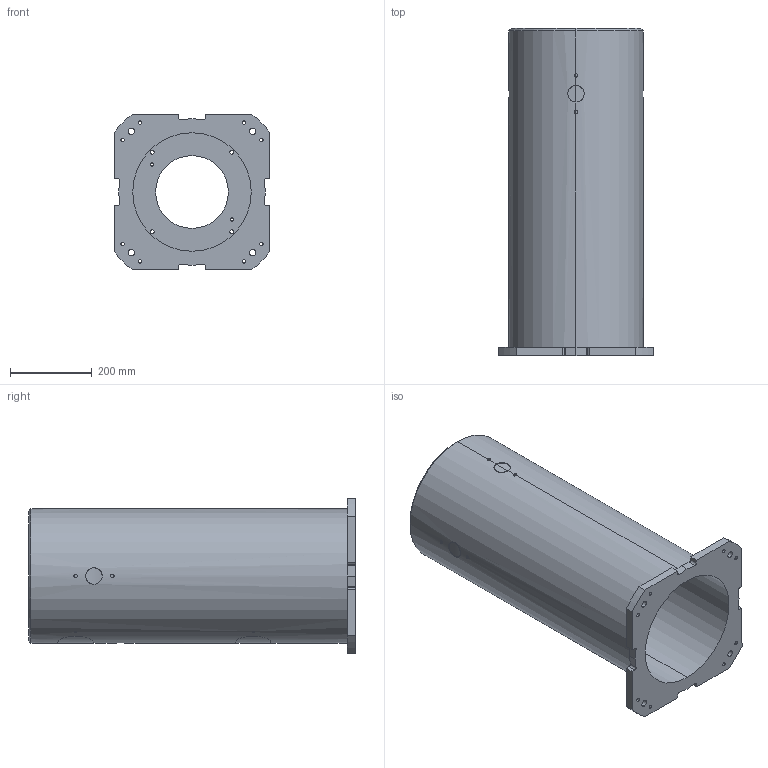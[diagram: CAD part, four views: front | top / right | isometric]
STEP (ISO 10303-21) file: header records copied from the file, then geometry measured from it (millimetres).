
FILE_DESCRIPTION (( 'STEP AP214' ), '1' );
FILE_NAME ('E-800.STEP', '2024-01-19T08:55:28', ( '' ), ( '' ), 'SwSTEP 2.0', 'SolidWorks 2022', '' );
FILE_SCHEMA (( 'AUTOMOTIVE_DESIGN' ));
Length unit declared in the file: millimetre
Products named in the file (1): E-800
Bounding box: 380 x 800 x 380 mm (x, y, z)
Volume: 17287585.2 mm3; surface area: 1793257.2 mm2
Topology: 1 solids, 1 shells, 167 faces, 457 edges, 304 vertices
Faces by surface type: cylinder 113, plane 28, bspline 24, cone 2
Entity records: 12428 total; most frequent: CARTESIAN_POINT 7721, ORIENTED_EDGE 914, DIRECTION 717, EDGE_CURVE 457, VERTEX_POINT 304, AXIS2_PLACEMENT_3D 270, EDGE_LOOP 217, VECTOR 177
